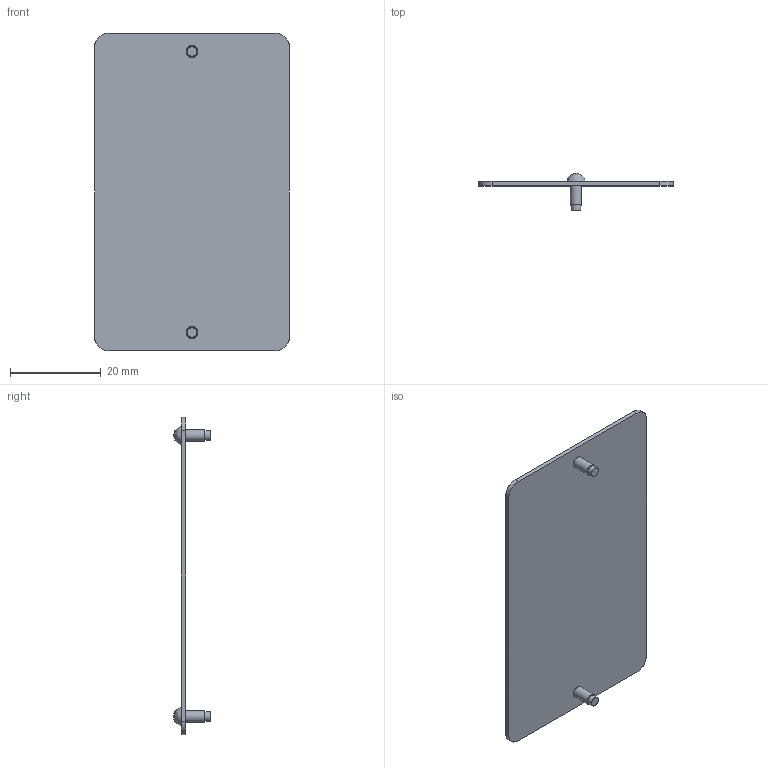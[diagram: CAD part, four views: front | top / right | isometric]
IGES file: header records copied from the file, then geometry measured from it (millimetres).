
Start section: VISI Layer Mapping Iges    VISI  0      LAYER0  1      WARNINGS
Global section: file name: G:\Produktkommunikation\Support\CD-Online-Katalog\3D Daten Produkte\E19120\STEP\E19120_7043_1_2.igs; native system: VISI 20.0; preprocessor: 2.0; author: nus; organization: Unknown; date: 20140919.102434; units: millimetre
Bounding box: 43 x 8.1 x 70 mm (x, y, z)
Surface area: 6389.2 mm2 (no closed solid volume)
Topology: 0 solids, 0 shells, 26 faces, 360 edges, 352 vertices
Faces by surface type: bspline 26
